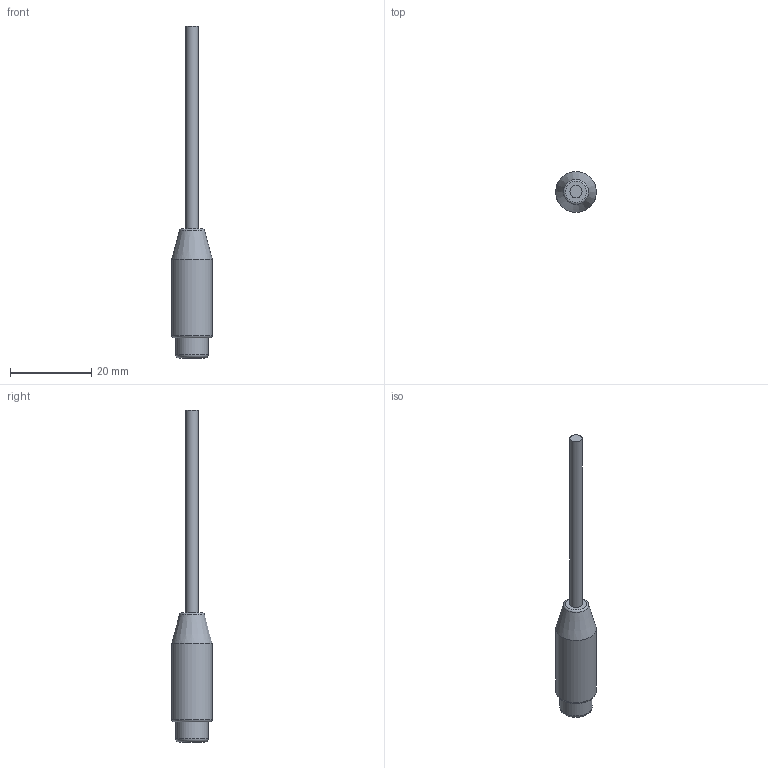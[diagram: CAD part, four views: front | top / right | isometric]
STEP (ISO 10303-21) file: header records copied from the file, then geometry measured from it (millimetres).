
FILE_DESCRIPTION(('FreeCAD Model'),'2;1');
FILE_NAME('Open CASCADE Shape Model','2026-06-11T12:17:22',(''),(''), 'Open CASCADE STEP processor 7.8','FreeCAD','Unknown');
FILE_SCHEMA(('AUTOMOTIVE_DESIGN { 1 0 10303 214 1 1 1 1 }'));
Length unit declared in the file: millimetre
Products named in the file (1): FW-405-35PHJ-FF-20CM_P2
Bounding box: 10 x 10 x 81.8 mm (x, y, z)
Volume: 2403 mm3; surface area: 1596.8 mm2
Topology: 1 solids, 1 shells, 13 faces, 20 edges, 12 vertices
Faces by surface type: plane 5, cylinder 4, torus 3, cone 1
Full cylindrical faces by diameter (mm): 3 x1, 3.5 x1, 8 x1, 10 x1
Entity records: 318 total; most frequent: DIRECTION 62, CARTESIAN_POINT 47, ORIENTED_EDGE 40, AXIS2_PLACEMENT_3D 29, EDGE_CURVE 20, FACE_BOUND 16, EDGE_LOOP 16, CIRCLE 15
